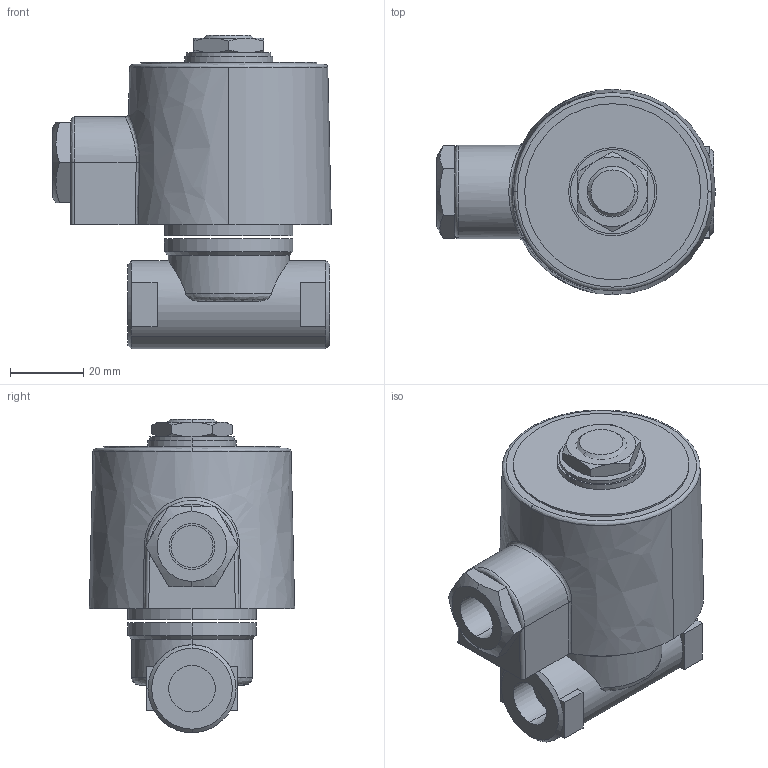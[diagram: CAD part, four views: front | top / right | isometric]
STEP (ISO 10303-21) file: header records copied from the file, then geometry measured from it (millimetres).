
FILE_DESCRIPTION( (''), '2;1');
FILE_NAME ('PC1027.5908.DD-3 10A 3D_24288.stp','2025-07-28T17:49:57',(''),(''),'spGate 19.8.4 (****-****-****-****)','','');
FILE_SCHEMA (('AUTOMOTIVE_DESIGN'));
Length unit declared in the file: millimetre
Products named in the file (5): Assembly; benbako10A; pipe; ACコイル10A; ACコイル10A部品
Assembly tree (4 placements, depth 2):
  Assembly
    benbako10A
    pipe
    ACコイル10A
    ACコイル10A部品
Bounding box: 76 x 56 x 85.5 mm (x, y, z)
Volume: 153651.6 mm3; surface area: 33964.9 mm2
Topology: 4 solids, 4 shells, 138 faces, 310 edges, 192 vertices
Faces by surface type: plane 65, bspline 40, cylinder 33
Entity records: 7328 total; most frequent: CARTESIAN_POINT 1839, ORIENTED_EDGE 620, DIRECTION 543, COLOUR_RGB 452, PRESENTATION_STYLE_ASSIGNMENT 452, STYLED_ITEM 452, EDGE_CURVE 310, DRAUGHTING_PRE_DEFINED_CURVE_FONT 310
